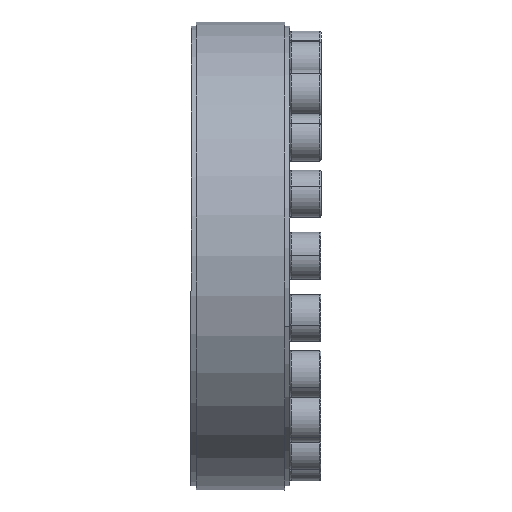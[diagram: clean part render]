
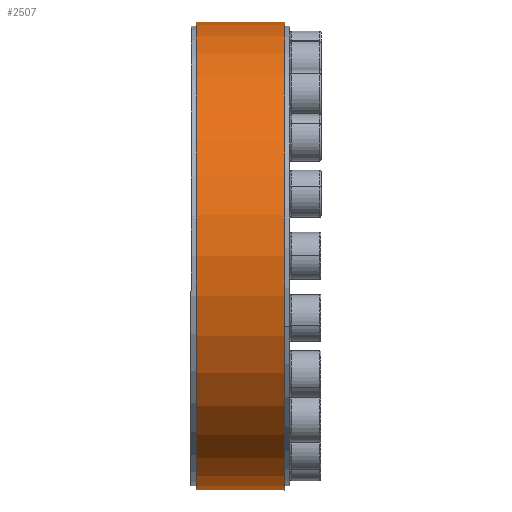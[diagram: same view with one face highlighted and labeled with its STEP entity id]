
A CAD part, top view. The second image highlights one B-rep face of the part: STEP entity #2507.
In plain terms, the highlighted cylindrical face has radius 90.001 mm (diameter 180.001 mm), a partial arc.
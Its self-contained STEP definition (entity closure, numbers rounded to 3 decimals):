
#448 = AXIS2_PLACEMENT_3D ( 'NONE', #4008, #12044, #8679 ) ;
#806 = DIRECTION ( 'NONE',  ( -1., 0., 0. ) ) ;
#1351 = DIRECTION ( 'NONE',  ( 0., -1., 0. ) ) ;
#2269 = EDGE_LOOP ( 'NONE', ( #13631, #12412, #9575, #13235 ) ) ;
#2395 = VERTEX_POINT ( 'NONE', #4984 ) ;
#2507 = ADVANCED_FACE ( 'NONE', ( #14630 ), #14259, .T. ) ;
#3070 = EDGE_CURVE ( 'NONE', #4254, #8474, #3107, .T. ) ;
#3107 = LINE ( 'NONE', #13130, #12947 ) ;
#3798 = EDGE_CURVE ( 'NONE', #12281, #2395, #6757, .T. ) ;
#4008 = CARTESIAN_POINT ( 'NONE',  ( -21.099, 0., 0. ) ) ;
#4121 = CARTESIAN_POINT ( 'NONE',  ( 15.901, 90., 0. ) ) ;
#4254 = VERTEX_POINT ( 'NONE', #10606 ) ;
#4730 = VECTOR ( 'NONE', #806, 1000. ) ;
#4984 = CARTESIAN_POINT ( 'NONE',  ( -18.099, 90.001, 0. ) ) ;
#5743 = CARTESIAN_POINT ( 'NONE',  ( -21.098, 90.001, 0. ) ) ;
#6757 = LINE ( 'NONE', #5743, #4730 ) ;
#8201 = CARTESIAN_POINT ( 'NONE',  ( 15.9, 0., 0. ) ) ;
#8474 = VERTEX_POINT ( 'NONE', #12008 ) ;
#8679 = DIRECTION ( 'NONE',  ( 0., -1., 0. ) ) ;
#8834 = DIRECTION ( 'NONE',  ( -1., 0., 0. ) ) ;
#9575 = ORIENTED_EDGE ( 'NONE', *, *, #12242, .F. ) ;
#10035 = CARTESIAN_POINT ( 'NONE',  ( -18.1, 0., 0. ) ) ;
#10406 = EDGE_CURVE ( 'NONE', #4254, #12281, #13508, .T. ) ;
#10606 = CARTESIAN_POINT ( 'NONE',  ( 15.898, -90.001, 0. ) ) ;
#11250 = DIRECTION ( 'NONE',  ( 0., -1., 0. ) ) ;
#11256 = AXIS2_PLACEMENT_3D ( 'NONE', #10035, #8834, #11250 ) ;
#11538 = CIRCLE ( 'NONE', #11256, 90.001 ) ;
#12008 = CARTESIAN_POINT ( 'NONE',  ( -18.102, -90., 0. ) ) ;
#12044 = DIRECTION ( 'NONE',  ( -1., 0., 0. ) ) ;
#12064 = AXIS2_PLACEMENT_3D ( 'NONE', #8201, #12878, #1351 ) ;
#12242 = EDGE_CURVE ( 'NONE', #8474, #2395, #11538, .T. ) ;
#12281 = VERTEX_POINT ( 'NONE', #4121 ) ;
#12412 = ORIENTED_EDGE ( 'NONE', *, *, #3798, .T. ) ;
#12878 = DIRECTION ( 'NONE',  ( -1., 0., 0. ) ) ;
#12947 = VECTOR ( 'NONE', #13273, 1000. ) ;
#13130 = CARTESIAN_POINT ( 'NONE',  ( -21.101, -90., 0. ) ) ;
#13235 = ORIENTED_EDGE ( 'NONE', *, *, #3070, .F. ) ;
#13273 = DIRECTION ( 'NONE',  ( -1., 0., 0. ) ) ;
#13508 = CIRCLE ( 'NONE', #12064, 90.001 ) ;
#13631 = ORIENTED_EDGE ( 'NONE', *, *, #10406, .T. ) ;
#14259 = CYLINDRICAL_SURFACE ( 'NONE', #448, 90.001 ) ;
#14630 = FACE_OUTER_BOUND ( 'NONE', #2269, .T. ) ;
